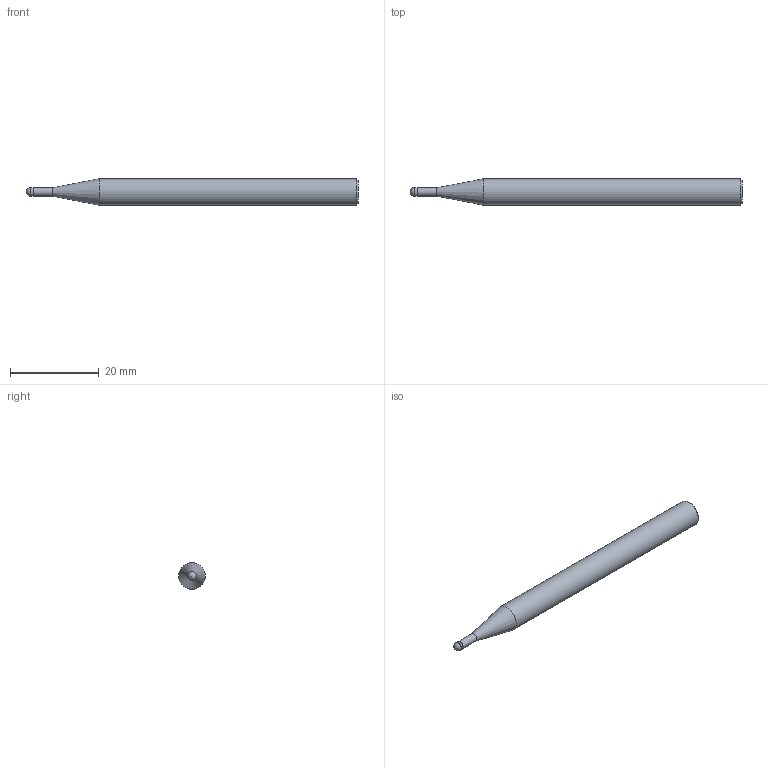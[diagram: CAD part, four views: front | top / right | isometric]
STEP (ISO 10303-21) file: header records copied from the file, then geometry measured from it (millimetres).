
FILE_DESCRIPTION(/* description */ (''),/* implementation_level */ '2;1');
FILE_NAME(/* name */ 'HSXB2020 0675.stp',/* time_stamp */ '2026-08-01T16:32:24+08:00',/* author */ (''),/* organization */ (''),/* preprocessor_version */ 'ST-DEVELOPER v16',/* originating_system */ 'SIEMENS PLM Software NX 10.0',/* authorisation */ '');
FILE_SCHEMA (('CONFIG_CONTROL_DESIGN'));
Length unit declared in the file: millimetre
Products named in the file (1): HSXB2020 0675_dxf
Bounding box: 75 x 6 x 6 mm (x, y, z)
Volume: 1809.2 mm3; surface area: 1302.3 mm2
Topology: 2 solids, 2 shells, 9 faces, 15 edges, 9 vertices
Faces by surface type: plane 3, cylinder 3, cone 2, sphere 1
Full cylindrical faces by diameter (mm): 1.9 x1, 2 x1, 6 x1
Entity records: 246 total; most frequent: DIRECTION 34, CARTESIAN_POINT 24, AXIS2_PLACEMENT_3D 17, EDGE_LOOP 14, ORIENTED_EDGE 14, FACE_BOUND 10, ADVANCED_FACE 9, PERSON_AND_ORGANIZATION 7
